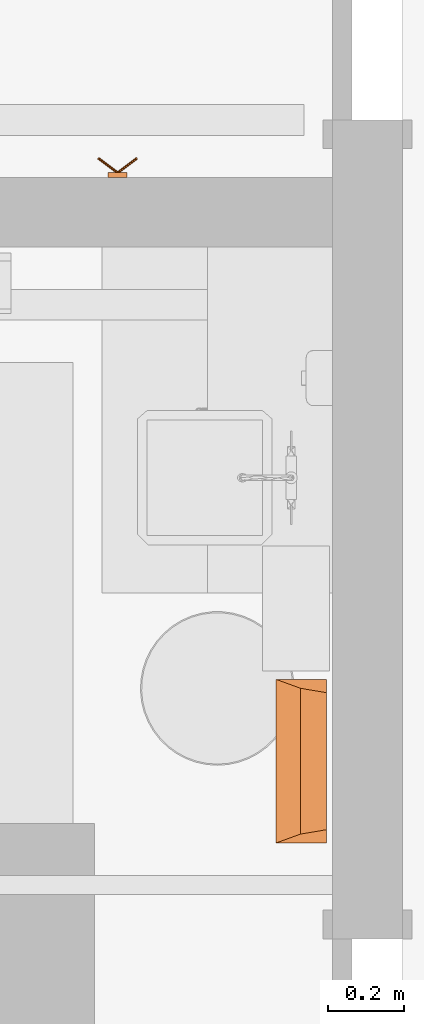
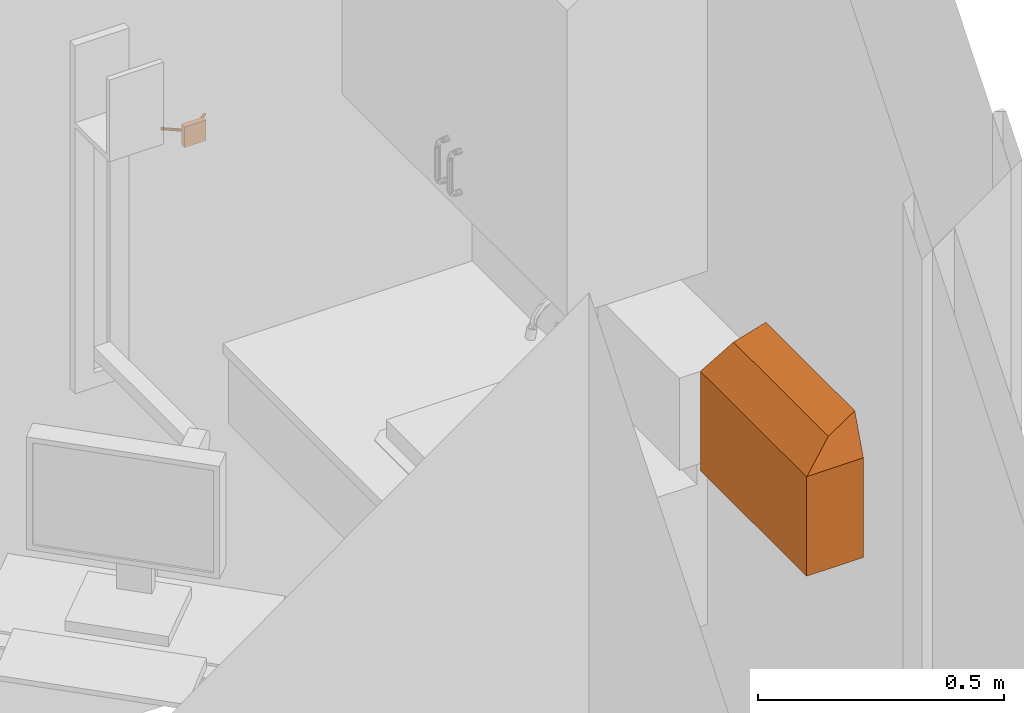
# One storey, part 117 of 142: 2 proxies.
"""IFC2X3 building model written with IfcOpenShell, lengths in feet."""

import ifcopenshell
import ifcopenshell.guid

model = None  # the IFC model being written
_history = None  # IfcOwnerHistory: only IFC2X3 demands one
_inside = {}  # id of a spatial element -> (the spatial element, [elements in it])
_under = {}  # id of a project, library or spatial element -> (it, [spatial elements below it])
_declared = {}  # id of a project -> (the project, [libraries it declares])
_typed = {}  # id of a type object -> (the type object, [elements of that type])
_made_of = {}  # id of a material, layer set ... -> (it, [elements and type objects made of it])


def new_model(schema):
    """Start an empty IFC model of exactly this schema.

    Asked for "IFC4X3", IfcOpenShell would pick the latest addendum, in which some entities
    have other attributes; the version numbers below select the first issue.
    IFC2X3 requires an IfcOwnerHistory on every rooted entity: one is made here for all.
    """
    global model, _history
    if schema == "IFC4X3":
        model = ifcopenshell.file(schema_version=(4, 3, 0, 0))
    else:
        model = ifcopenshell.file(schema=schema)
    _inside.clear()
    _under.clear()
    _declared.clear()
    _typed.clear()
    _made_of.clear()
    _history = None
    if model.schema == "IFC2X3":
        org = make("IfcOrganization", Name="unknown")
        user = make(
            "IfcPersonAndOrganization",
            ThePerson=make("IfcPerson", FamilyName="unknown"),
            TheOrganization=org,
        )
        app = make(
            "IfcApplication",
            ApplicationDeveloper=org,
            Version="unknown",
            ApplicationFullName="unknown",
            ApplicationIdentifier="unknown",
        )
        _history = make(
            "IfcOwnerHistory",
            OwningUser=user,
            OwningApplication=app,
            ChangeAction="ADDED",
            CreationDate=0,
        )
    return model


def make(cls, **values):
    """One entity of the class cls with the attributes given. An attribute that is None is left unset."""
    return model.create_entity(
        cls, **{name: value for name, value in values.items() if value is not None}
    )


def entity(cls, *values):
    """Any entity or typed value of the class cls, its attributes in the order of the schema. None: left unset."""
    e = model.create_entity(cls)
    for i, value in enumerate(values):
        if value is not None:
            e[i] = value
    return e


def rooted(cls, **values):
    """An entity with a GlobalId (a new one), such as an element, a storey or a relation."""
    return make(cls, GlobalId=ifcopenshell.guid.new(), OwnerHistory=_history, **values)


def si_unit(unit_type, name, prefix=None):
    """IfcSIUnit, for example si_unit("LENGTHUNIT", "METRE", prefix="MILLI")."""
    return make("IfcSIUnit", UnitType=unit_type, Prefix=prefix, Name=name)


def converted_unit(unit_type, name, factor, base, dimensions=None, offset=None):
    """IfcConversionBasedUnit, such as the inch: factor (a typed value) times the base unit."""
    return make(
        "IfcConversionBasedUnit"
        if offset is None
        else "IfcConversionBasedUnitWithOffset",
        ConversionOffset=offset,
        Dimensions=None
        if dimensions is None
        else entity("IfcDimensionalExponents", *dimensions),
        UnitType=unit_type,
        Name=name,
        ConversionFactor=make(
            "IfcMeasureWithUnit", ValueComponent=factor, UnitComponent=base
        ),
    )


def derived_unit(unit_type, elements):
    """IfcDerivedUnit: a product of units, each with its exponent."""
    return make(
        "IfcDerivedUnit",
        Elements=[
            make("IfcDerivedUnitElement", Unit=unit, Exponent=power)
            for unit, power in elements
        ],
        UnitType=unit_type,
    )


def assignment(units):
    """IfcUnitAssignment: the units of a project."""
    return None if units is None else make("IfcUnitAssignment", Units=units)


def point(xyz):
    """IfcCartesianPoint."""
    return None if xyz is None else make("IfcCartesianPoint", Coordinates=xyz)


def direction(xyz):
    """IfcDirection."""
    return None if xyz is None else make("IfcDirection", DirectionRatios=xyz)


def frame(location, z_axis=None, x_axis=None):
    """IfcAxis2Placement3D, a coordinate frame: its origin and axes. An axis left out is left unset."""
    return make(
        "IfcAxis2Placement3D",
        Location=point(location),
        Axis=direction(z_axis),
        RefDirection=direction(x_axis),
    )


def frame_2d(location, x_axis=None):
    """IfcAxis2Placement2D, a coordinate frame in the plane: its origin and x axis."""
    return make(
        "IfcAxis2Placement2D", Location=point(location), RefDirection=direction(x_axis)
    )


def origin():
    """The frame at (0, 0, 0) with its axes left unset."""
    return frame((0.0, 0.0, 0.0))


def origin_2d_with_axis():
    """The frame at (0, 0) in the plane with the x axis (1, 0) written out."""
    return frame_2d((0.0, 0.0), x_axis=(1.0, 0.0))


def place(relative_to, where):
    """IfcLocalPlacement: puts the frame where relative to a parent placement (None: the world)."""
    return make(
        "IfcLocalPlacement", PlacementRelTo=relative_to, RelativePlacement=where
    )


def context(
    kind, dimensions, precision=None, world=None, true_north=None, identifier=None
):
    """IfcGeometricRepresentationContext, for example the 3D "Model" context."""
    return make(
        "IfcGeometricRepresentationContext",
        ContextIdentifier=identifier,
        ContextType=kind,
        CoordinateSpaceDimension=dimensions,
        Precision=precision,
        WorldCoordinateSystem=world,
        TrueNorth=true_north,
    )


def subcontext(parent, identifier, kind, view, scale=None):
    """IfcGeometricRepresentationSubContext, for example "Body" below "Model"."""
    return make(
        "IfcGeometricRepresentationSubContext",
        ContextIdentifier=identifier,
        ContextType=kind,
        ParentContext=parent,
        TargetScale=scale,
        TargetView=view,
    )


def project(units=None, contexts=None):
    """IfcProject with its units and contexts."""
    return rooted(
        "IfcProject",
        Name="project",
        RepresentationContexts=contexts,
        UnitsInContext=assignment(units),
    )


def spatial(cls, under=None, at=None, **own):
    """A site, building, storey or space (cls), placed at a placement, below another one or the project."""
    s = rooted(cls, ObjectPlacement=at, **own)
    if under is not None:
        _under.setdefault(under.id(), (under, []))[1].append(s)
    return s


def profile(cls, at=None, kind="AREA", **sizes):
    """A parametric profile (cls). Its sizes go by their IFC names, for example OverallWidth=200.0."""
    return make(cls, ProfileType=kind, Position=at, **sizes)


def rectangle(**sizes):
    """IfcRectangleProfileDef."""
    return profile("IfcRectangleProfileDef", **sizes)


def circle(**sizes):
    """IfcCircleProfileDef."""
    return profile("IfcCircleProfileDef", **sizes)


def extrude(swept, where, along, depth):
    """IfcExtrudedAreaSolid: the profile swept, set in the frame where, extruded along a direction by depth."""
    return make(
        "IfcExtrudedAreaSolid",
        SweptArea=swept,
        Position=where,
        ExtrudedDirection=direction(along),
        Depth=depth,
    )


def faces_of(points, faces, orient=None, outer=None):
    """IfcFace entities. A face is a list of loops; a loop is a list of indices into points, from 0.

    orient and outer hold one flag for each loop. By default every Orientation is true, the
    first loop of a face is its IfcFaceOuterBound and the others are IfcFaceBound.
    """
    made = []
    for i, loops in enumerate(faces):
        bounds = []
        for j, loop in enumerate(loops):
            is_outer = j == 0 if outer is None else outer[i][j]
            bounds.append(
                make(
                    "IfcFaceOuterBound" if is_outer else "IfcFaceBound",
                    Bound=make("IfcPolyLoop", Polygon=[points[k] for k in loop]),
                    Orientation=True if orient is None else orient[i][j],
                )
            )
        made.append(make("IfcFace", Bounds=bounds))
    return made


def faceted_brep(points, faces, orient=None, outer=None, voids=None):
    """IfcFacetedBrep: a solid bounded by flat faces; with voids (closed shells), ...WithVoids."""
    shared = [point(p) for p in points]
    hull = make("IfcClosedShell", CfsFaces=faces_of(shared, faces, orient, outer))
    if voids is None:
        return make("IfcFacetedBrep", Outer=hull)
    return make(
        "IfcFacetedBrepWithVoids",
        Outer=hull,
        Voids=[
            make(cls, CfsFaces=faces_of(shared, fs, o, b)) for cls, fs, o, b in voids
        ],
    )


def shape(context_of_items, identifier, shape_type, items):
    """IfcShapeRepresentation: the items that make up one representation, for example the "Body"."""
    return make(
        "IfcShapeRepresentation",
        ContextOfItems=context_of_items,
        RepresentationIdentifier=identifier,
        RepresentationType=shape_type,
        Items=items,
    )


def source(mapping_origin, context_of_items, identifier, shape_type, items):
    """IfcRepresentationMap: a shape defined once, which mapped items show again and again."""
    return make(
        "IfcRepresentationMap",
        MappingOrigin=mapping_origin,
        MappedRepresentation=shape(context_of_items, identifier, shape_type, items),
    )


def transform(
    local_origin,
    x_axis=None,
    y_axis=None,
    z_axis=None,
    scale=None,
    scale2=None,
    scale3=None,
    uniform=True,
):
    """IfcCartesianTransformationOperator3D, or its non-uniform kind. x_axis, y_axis, z_axis: its Axis1, 2, 3."""
    if uniform:
        return make(
            "IfcCartesianTransformationOperator3D",
            Axis1=direction(x_axis),
            Axis2=direction(y_axis),
            LocalOrigin=point(local_origin),
            Scale=scale,
            Axis3=direction(z_axis),
        )
    return make(
        "IfcCartesianTransformationOperator3DnonUniform",
        Axis1=direction(x_axis),
        Axis2=direction(y_axis),
        LocalOrigin=point(local_origin),
        Scale=scale,
        Axis3=direction(z_axis),
        Scale2=scale2,
        Scale3=scale3,
    )


def mapped(mapping_source, mapping_target):
    """IfcMappedItem: shows the shape of a source again, moved by a transform."""
    return make(
        "IfcMappedItem", MappingSource=mapping_source, MappingTarget=mapping_target
    )


def made_of(thing, what):
    """Note that an element or type object is made of a material, layer set ...; save() writes the relation."""
    if what is not None:
        _made_of.setdefault(what.id(), (what, []))[1].append(thing)
    return thing


def type_object(cls, material=None, **own):
    """A type object (cls), such as IfcWallType, which elements share."""
    return made_of(rooted(cls, **own), material)


def type_shapes(of_type, sources):
    """Give a type object the sources (RepresentationMaps) that its elements show as mapped items."""
    of_type.RepresentationMaps = sources


def element(
    cls,
    number,
    at=None,
    inside=None,
    cuts=None,
    type_object=None,
    material=None,
    context=None,
    identifier="Body",
    shape_type=None,
    held_by="IfcProductDefinitionShape",
    body=None,
    shapes=None,
    **own,
):
    """One element of the class cls, such as IfcWall. Its Tag is "e" and its number.

    at: its placement. inside: the storey or other place that contains it. cuts: it is an
    opening in that element (IfcRelVoidsElement). A single representation is given by context,
    identifier, shape_type and body (its items); several are given by shapes. held_by: the class
    of the entity that holds the representations. save() writes the other relations.
    """
    e = rooted(cls, Tag="e%d" % number, ObjectPlacement=at, **own)
    if body is not None:
        shapes = [shape(context, identifier, shape_type, body)]
    if shapes is not None:
        e.Representation = make(held_by, Representations=shapes)
    if inside is not None:
        _inside.setdefault(inside.id(), (inside, []))[1].append(e)
    if cuts is not None:
        rooted(
            "IfcRelVoidsElement", RelatingBuildingElement=cuts, RelatedOpeningElement=e
        )
    if type_object is not None:
        _typed.setdefault(type_object.id(), (type_object, []))[1].append(e)
    return made_of(e, material)


def aggregate(whole, parts):
    """IfcRelAggregates: a whole, such as a stair, and the parts it consists of."""
    return rooted("IfcRelAggregates", RelatingObject=whole, RelatedObjects=parts)


def save(model, path):
    """Write the relations noted so far, then the file.

    IfcRelAggregates (storeys below a building ...), IfcRelContainedInSpatialStructure (elements
    in a storey), IfcRelDefinesByType, IfcRelAssociatesMaterial and IfcRelDeclares: one each for
    every whole, place, type object, material and project.
    """
    for whole, parts in _under.values():
        aggregate(whole, parts)
    for where, things in _inside.values():
        rooted(
            "IfcRelContainedInSpatialStructure",
            RelatedElements=things,
            RelatingStructure=where,
        )
    for kind, things in _typed.values():
        rooted("IfcRelDefinesByType", RelatedObjects=things, RelatingType=kind)
    for what, things in _made_of.values():
        rooted("IfcRelAssociatesMaterial", RelatedObjects=things, RelatingMaterial=what)
    for by, libraries in _declared.values():
        rooted("IfcRelDeclares", RelatingContext=by, RelatedDefinitions=libraries)
    model.write(path)


model = new_model("IFC2X3")

# Units and contexts
model_context = context("Model", 3, precision=0.0001, world=origin(), true_north=direction((6.12303176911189e-17, 1.0)))
body_context = subcontext(model_context, "Body", "Model", "MODEL_VIEW")
ifc_project = project(units=[converted_unit("LENGTHUNIT", "FOOT", entity("IfcRatioMeasure", 0.3048), si_unit("LENGTHUNIT", "METRE"), dimensions=[1, 0, 0, 0, 0, 0, 0]), converted_unit("AREAUNIT", "SQUARE FOOT", entity("IfcRatioMeasure", 0.09290304), si_unit("AREAUNIT", "SQUARE_METRE"), dimensions=[2, 0, 0, 0, 0, 0, 0]), converted_unit("VOLUMEUNIT", "CUBIC FOOT", entity("IfcRatioMeasure", 0.028316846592), si_unit("VOLUMEUNIT", "CUBIC_METRE"), dimensions=[3, 0, 0, 0, 0, 0, 0]), converted_unit("PLANEANGLEUNIT", "DEGREE", entity("IfcRatioMeasure", 0.0174532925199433), si_unit("PLANEANGLEUNIT", "RADIAN"), dimensions=[0, 0, 0, 0, 0, 0, 0]), si_unit("MASSUNIT", "GRAM", prefix="KILO"), derived_unit("MASSDENSITYUNIT", [(si_unit("MASSUNIT", "GRAM", prefix="KILO"), 1), (si_unit("LENGTHUNIT", "METRE"), -3)]), si_unit("TIMEUNIT", "SECOND"), si_unit("FREQUENCYUNIT", "HERTZ"), si_unit("THERMODYNAMICTEMPERATUREUNIT", "DEGREE_CELSIUS"), derived_unit("THERMALTRANSMITTANCEUNIT", [(si_unit("MASSUNIT", "GRAM", prefix="KILO"), 1), (si_unit("THERMODYNAMICTEMPERATUREUNIT", "KELVIN"), -1), (si_unit("TIMEUNIT", "SECOND"), -3)]), derived_unit("VOLUMETRICFLOWRATEUNIT", [(si_unit("LENGTHUNIT", "METRE"), 3), (si_unit("TIMEUNIT", "SECOND"), -1)]), si_unit("ELECTRICCURRENTUNIT", "AMPERE"), si_unit("ELECTRICVOLTAGEUNIT", "VOLT"), si_unit("POWERUNIT", "WATT"), si_unit("FORCEUNIT", "NEWTON"), si_unit("ILLUMINANCEUNIT", "LUX"), si_unit("LUMINOUSFLUXUNIT", "LUMEN"), si_unit("LUMINOUSINTENSITYUNIT", "CANDELA"), derived_unit("USERDEFINED", [(si_unit("MASSUNIT", "GRAM", prefix="KILO"), -1), (si_unit("LENGTHUNIT", "METRE"), -2), (si_unit("TIMEUNIT", "SECOND"), 3), (si_unit("LUMINOUSFLUXUNIT", "LUMEN"), 1)]), derived_unit("LINEARVELOCITYUNIT", [(si_unit("LENGTHUNIT", "METRE"), 1), (si_unit("TIMEUNIT", "SECOND"), -1)]), si_unit("PRESSUREUNIT", "PASCAL"), derived_unit("USERDEFINED", [(si_unit("LENGTHUNIT", "METRE"), -2), (si_unit("MASSUNIT", "GRAM", prefix="KILO"), 1), (si_unit("TIMEUNIT", "SECOND"), -2)])], contexts=[model_context])

# Site, building, storey
site_placement = place(None, origin())
site = spatial("IfcSite", under=ifc_project, at=site_placement, Name="Default", CompositionType="ELEMENT")
building_placement = place(site_placement, origin())
building = spatial("IfcBuilding", under=site, at=building_placement, Name="OUTPATIENT / PACT CLINIC (Ch. 265)", CompositionType="ELEMENT")
storey_placement = place(building_placement, origin())
storey = spatial("IfcBuildingStorey", under=building, at=storey_placement, Name="LEVEL 1", CompositionType="ELEMENT", Elevation=0.0)

# Proxy
building_element_proxy_type_1 = type_object("IfcBuildingElementProxyType", Name="A5108 - Waste Disposal Unit, Sharps 17\"x 13\"", PredefinedType="NOTDEFINED")
shared_shape_1 = source(origin(), body_context, "Body", "Brep", [
    faceted_brep([(0.70833333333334, 0.0, 0.0), (-0.708333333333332, 0.0, 0.0), (-0.708333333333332, 0.437500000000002, 0.0), (0.70833333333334, 0.437500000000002, 0.0), (0.70833333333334, 0.437500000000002, 0.810989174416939), (0.70833333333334, 0.0025667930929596, 0.810989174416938), (0.70833333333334, 0.0, 0.808422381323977), (-0.708333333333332, 0.437500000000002, 0.810989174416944), (-0.594042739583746, 0.437500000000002, 1.125), (0.594042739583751, 0.437500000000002, 1.125), (-0.708333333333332, 0.0, 0.808422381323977), (-0.708333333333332, 0.00256679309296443, 0.810989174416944), (0.632497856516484, 0.210923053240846, 1.01934543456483), (-0.632497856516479, 0.210923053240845, 1.01934543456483)], [[[0, 1, 2, 3]], [[0, 3, 4, 5, 6]], [[3, 2, 7, 8, 9, 4]], [[2, 1, 10, 11, 7]], [[1, 0, 6, 10]], [[10, 6, 5, 12, 13, 11]], [[12, 9, 8, 13]], [[5, 4, 9, 12]], [[8, 7, 11, 13]]]),
])
type_shapes(building_element_proxy_type_1, [shared_shape_1])
proxy_1_placement = place(storey_placement, frame((447.265394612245, -925.899675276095, 3.5), z_axis=(0.0, 0.0, 1.0), x_axis=(0.0, -1.0, 0.0)))
element("IfcBuildingElementProxy", 1, at=proxy_1_placement, inside=storey, type_object=building_element_proxy_type_1, Name="A5108 - Waste Disposal Unit, Sharps1:A5108 - Waste Disposal Unit, Sharps 17\"x 13\"", ObjectType="A5108 - Waste Disposal Unit, Sharps 17\"x 13\"", context=body_context, shape_type="MappedRepresentation", body=[
    mapped(shared_shape_1, transform((0.0, 0.0, 0.0), scale=1.0)),
])

# Space
space_placement = place(storey_placement, origin())
space = spatial("IfcSpace", under=storey, at=space_placement, Name="EXPA1", CompositionType="ELEMENT", InteriorOrExteriorSpace="INTERNAL")

# Proxy
building_element_proxy_type_2 = type_object("IfcBuildingElementProxyType", Name="A5145 - Hook, Garment, Double", PredefinedType="NOTDEFINED")
shared_shape_2 = source(origin(), body_context, "Body", "SweptSolid", [
    extrude(circle(Radius=0.0105952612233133, at=frame_2d((-1.64551454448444e-31, -4.16333634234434e-17), x_axis=(1.0, 0.0))), frame((-0.169086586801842, -0.168481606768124, 0.0833333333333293), z_axis=(0.799999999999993, 0.60000000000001, 0.0), x_axis=(0.60000000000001, -0.799999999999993, 0.0)), (0.0, 0.0, 1.0), 0.211358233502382),
    extrude(circle(Radius=0.0105952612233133, at=frame_2d((5.2041704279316e-19, 2.77555756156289e-17), x_axis=(1.0, 0.0))), frame((0.0, -0.0416666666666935, 0.083333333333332), z_axis=(0.799999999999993, -0.60000000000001, 0.0), x_axis=(-0.60000000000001, -0.799999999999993, 0.0)), (0.0, 0.0, 1.0), 0.211358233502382),
    extrude(rectangle(XDim=0.0416666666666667, YDim=0.166666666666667, at=origin_2d_with_axis()), frame((0.0, -0.0208333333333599, 0.0), z_axis=(0.0, 0.0, 1.0), x_axis=(0.0, 1.0, 0.0)), (0.0, 0.0, 1.0), 0.166666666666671),
])
type_shapes(building_element_proxy_type_2, [shared_shape_2])
proxy_2_placement = place(space_placement, frame((445.890393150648, -920.837175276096, 4.0), z_axis=(0.0, 0.0, 1.0), x_axis=(-1.0, 0.0, 0.0)))
element("IfcBuildingElementProxy", 2, at=proxy_2_placement, inside=space, type_object=building_element_proxy_type_2, Name="A5145 - Hook, Garment, Double:A5145 - Hook, Garment, Double", ObjectType="A5145 - Hook, Garment, Double", context=body_context, shape_type="MappedRepresentation", body=[
    mapped(shared_shape_2, transform((0.0, 0.0, 0.0), scale=1.0)),
])

save(model, "model.ifc")
